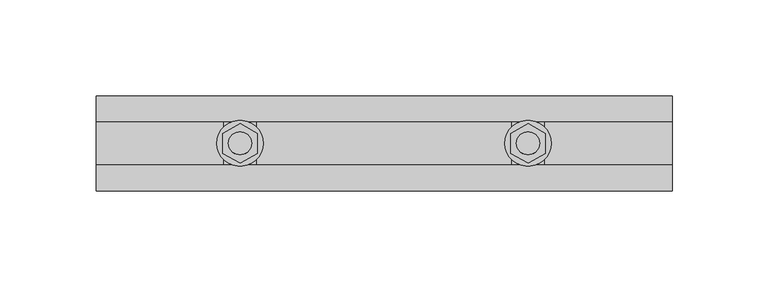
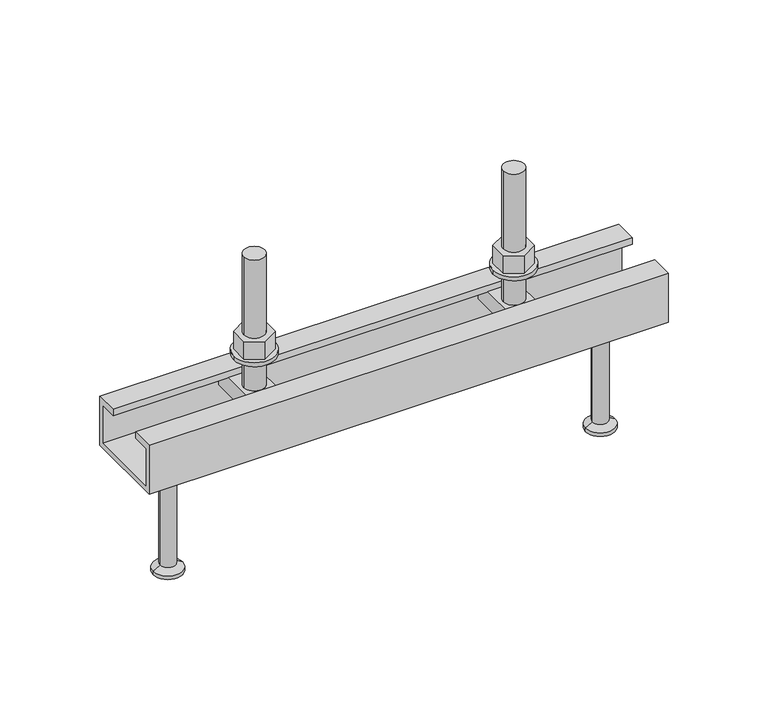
"""IFC4 building model written with IfcOpenShell, lengths in millimetres: fastener geometry, JTA-W JORDAHL® AnchorChannels : JTA-W L=300 mm."""

from ifc_helpers import new_model, si_unit, point, frame, frame_2d, origin, place, context, project, spatial, polyline, circle_curve, trimmed, segment, composite_curve, outline, extrude, source, transform, mapped, element, save
from ifc_brep_helpers import plane_surface, cylinder_surface, revolved_surface, advanced_brep


def fastener_c9796623(model_context):
    return source(origin(), model_context, "Body", "SolidModel", [
        extrude(outline(polyline([(225.0, -10.3923048), (216.0, -5.1961524), (216.0, 5.1961524), (225.0, 10.3923048), (234.0, 5.1961524), (234.0, -5.1961524), (225.0, -10.3923048)]), holes=[composite_curve([segment(trimmed(circle_curve(frame_2d((225.0, 0.0)), 6.0), [point((219.0, 0.0))], [point((231.0, 0.0))], True, "CARTESIAN"), True, "CONTINUOUS"), segment(trimmed(circle_curve(frame_2d((225.0, 0.0)), 6.0), [point((231.0, 0.0))], [point((219.0, 0.0))], True, "CARTESIAN"), True, "CONTINUOUS")], self_intersect=False)]), frame((0.0, 0.0, 17.5), z_axis=(0.0, 0.0, 1.0), x_axis=(1.0, 0.0, 0.0)), (0.0, 0.0, 1.0), 10.8),
        extrude(outline(composite_curve([segment(trimmed(circle_curve(frame_2d((225.0, 0.0)), 12.0), [point((213.0, 0.0))], [point((237.0, 0.0))], False, "CARTESIAN"), True, "CONTINUOUS"), segment(trimmed(circle_curve(frame_2d((225.0, 0.0)), 12.0), [point((237.0, 0.0))], [point((213.0, 0.0))], False, "CARTESIAN"), True, "CONTINUOUS")], self_intersect=False), holes=[composite_curve([segment(trimmed(circle_curve(frame_2d((225.0, 0.0)), 6.5), [point((218.5, 0.0))], [point((231.5, 0.0))], True, "CARTESIAN"), True, "CONTINUOUS"), segment(trimmed(circle_curve(frame_2d((225.0, 0.0)), 6.5), [point((231.5, 0.0))], [point((218.5, 0.0))], True, "CARTESIAN"), True, "CONTINUOUS")], self_intersect=False)]), frame((0.0, 0.0, 15.0), z_axis=(0.0, 0.0, 1.0), x_axis=(1.0, 0.0, 0.0)), (0.0, 0.0, 1.0), 2.5),
        extrude(outline(polyline([(75.0, -10.3923048), (66.0, -5.1961524), (66.0, 5.1961524), (75.0, 10.3923048), (84.0, 5.1961524), (84.0, -5.1961524), (75.0, -10.3923048)]), holes=[composite_curve([segment(trimmed(circle_curve(frame_2d((75.0, 0.0)), 6.0), [point((69.0, 0.0))], [point((81.0, 0.0))], True, "CARTESIAN"), True, "CONTINUOUS"), segment(trimmed(circle_curve(frame_2d((75.0, 0.0)), 6.0), [point((81.0, 0.0))], [point((69.0, 0.0))], True, "CARTESIAN"), True, "CONTINUOUS")], self_intersect=False)]), frame((0.0, 0.0, 17.5), z_axis=(0.0, 0.0, 1.0), x_axis=(1.0, 0.0, 0.0)), (0.0, 0.0, 1.0), 10.8),
        extrude(outline(composite_curve([segment(trimmed(circle_curve(frame_2d((75.0, 0.0)), 12.0), [point((63.0, 0.0))], [point((87.0, 0.0))], False, "CARTESIAN"), True, "CONTINUOUS"), segment(trimmed(circle_curve(frame_2d((75.0, 0.0)), 12.0), [point((87.0, 0.0))], [point((63.0, 0.0))], False, "CARTESIAN"), True, "CONTINUOUS")], self_intersect=False), holes=[composite_curve([segment(trimmed(circle_curve(frame_2d((75.0, 0.0)), 6.5), [point((68.5, 0.0))], [point((81.5, 0.0))], True, "CARTESIAN"), True, "CONTINUOUS"), segment(trimmed(circle_curve(frame_2d((75.0, 0.0)), 6.5), [point((81.5, 0.0))], [point((68.5, 0.0))], True, "CARTESIAN"), True, "CONTINUOUS")], self_intersect=False)]), frame((0.0, 0.0, 15.0), z_axis=(0.0, 0.0, 1.0), x_axis=(1.0, 0.0, 0.0)), (0.0, 0.0, 1.0), 2.5),
        advanced_brep(
        [(233.5, -20.7, -4.0), (233.5, -20.7, -14.0), (233.5, 20.7, -14.0), (233.5, 20.7, -4.0), (216.5, -20.7, -4.0), (216.5, 20.7, -4.0), (216.5, 20.7, -14.0), (216.5, -20.7, -14.0), (231.0, 0.0, -4.0), (219.0, 0.0, -4.0), (219.0, 0.0, 76.0), (231.0, 0.0, 76.0)],
        [
            (0, 1),
            (1, 2),
            (2, 3),
            (3, 0),
            (4, 5),
            (5, 6),
            (6, 7),
            (7, 4),
            (3, 5),
            (4, 0),
            (8, 9, circle_curve(frame((225.0, 0.0, -4.0), z_axis=(0.0, 0.0, -1.0), x_axis=(1.0, 0.0, 0.0)), 6.0)),
            (9, 8, circle_curve(frame((225.0, 0.0, -4.0), z_axis=(0.0, 0.0, -1.0), x_axis=(1.0, 0.0, 0.0)), 6.0)),
            (2, 6),
            (1, 7),
            (10, 11, circle_curve(frame((225.0, 0.0, 76.0), z_axis=(0.0, 0.0, 1.0), x_axis=(1.0, 0.0, 0.0)), 6.0)),
            (11, 10, circle_curve(frame((225.0, 0.0, 76.0), z_axis=(0.0, 0.0, 1.0), x_axis=(1.0, 0.0, 0.0)), 6.0)),
            (11, 8),
            (9, 10),
        ],
        [
            plane_surface(frame((233.5, 20.7, -4.0), z_axis=(1.0, 0.0, 0.0), x_axis=(0.0, 1.0, 0.0))),
            plane_surface(frame((216.5, 20.7, -4.0), z_axis=(-1.0, 0.0, 0.0), x_axis=(0.0, -1.0, 0.0))),
            plane_surface(frame((233.5, -20.7, -4.0), z_axis=(0.0, 0.0, 1.0), x_axis=(-1.0, 0.0, 0.0))),
            plane_surface(frame((233.5, 20.7, -4.0), z_axis=(0.0, 1.0, 0.0), x_axis=(-1.0, 0.0, 0.0))),
            plane_surface(frame((233.5, 20.7, -14.0), z_axis=(0.0, 0.0, -1.0), x_axis=(-1.0, 0.0, 0.0))),
            plane_surface(frame((233.5, -20.7, -14.0), z_axis=(0.0, -1.0, 0.0), x_axis=(-1.0, 0.0, 0.0))),
            plane_surface(frame((231.0, 0.0, 76.0), z_axis=(0.0, 0.0, 1.0), x_axis=(0.0, -1.0, 0.0))),
            cylinder_surface(frame((225.0, 0.0, -4.0), z_axis=(0.0, 0.0, 1.0), x_axis=(1.0, 0.0, 0.0)), 6.0),
        ],
        [
            (0, [[1, 2, 3, 4]]),
            (1, [[5, 6, 7, 8]]),
            (2, [[9, -5, 10, -4], [11, 12]]),
            (3, [[13, -6, -9, -3]]),
            (4, [[14, -7, -13, -2]]),
            (5, [[-10, -8, -14, -1]]),
            (6, [[15, 16]]),
            (7, [[17, -12, 18, -16]]),
            (7, [[-18, -11, -17, -15]]),
        ],
    ),
        advanced_brep(
        [(83.5, -20.7, -4.0), (83.5, -20.7, -14.0), (83.5, 20.7, -14.0), (83.5, 20.7, -4.0), (66.5, -20.7, -4.0), (66.5, 20.7, -4.0), (66.5, 20.7, -14.0), (66.5, -20.7, -14.0), (81.0, 0.0, -4.0), (69.0, 0.0, -4.0), (69.0, 0.0, 76.0), (81.0, 0.0, 76.0)],
        [
            (0, 1),
            (1, 2),
            (2, 3),
            (3, 0),
            (4, 5),
            (5, 6),
            (6, 7),
            (7, 4),
            (3, 5),
            (4, 0),
            (8, 9, circle_curve(frame((75.0, 0.0, -4.0), z_axis=(0.0, 0.0, -1.0), x_axis=(1.0, 0.0, 0.0)), 6.0)),
            (9, 8, circle_curve(frame((75.0, 0.0, -4.0), z_axis=(0.0, 0.0, -1.0), x_axis=(1.0, 0.0, 0.0)), 6.0)),
            (2, 6),
            (1, 7),
            (10, 11, circle_curve(frame((75.0, 0.0, 76.0), z_axis=(0.0, 0.0, 1.0), x_axis=(1.0, 0.0, 0.0)), 6.0)),
            (11, 10, circle_curve(frame((75.0, 0.0, 76.0), z_axis=(0.0, 0.0, 1.0), x_axis=(1.0, 0.0, 0.0)), 6.0)),
            (11, 8),
            (9, 10),
        ],
        [
            plane_surface(frame((83.5, 20.7, -4.0), z_axis=(1.0, 0.0, 0.0), x_axis=(0.0, 1.0, 0.0))),
            plane_surface(frame((66.5, 20.7, -4.0), z_axis=(-1.0, 0.0, 0.0), x_axis=(0.0, -1.0, 0.0))),
            plane_surface(frame((83.5, -20.7, -4.0), z_axis=(0.0, 0.0, 1.0), x_axis=(-1.0, 0.0, 0.0))),
            plane_surface(frame((83.5, 20.7, -4.0), z_axis=(0.0, 1.0, 0.0), x_axis=(-1.0, 0.0, 0.0))),
            plane_surface(frame((83.5, 20.7, -14.0), z_axis=(0.0, 0.0, -1.0), x_axis=(-1.0, 0.0, 0.0))),
            plane_surface(frame((83.5, -20.7, -14.0), z_axis=(0.0, -1.0, 0.0), x_axis=(-1.0, 0.0, 0.0))),
            plane_surface(frame((81.0, 0.0, 76.0), z_axis=(0.0, 0.0, 1.0), x_axis=(0.0, -1.0, 0.0))),
            cylinder_surface(frame((75.0, 0.0, -4.0), z_axis=(0.0, 0.0, 1.0), x_axis=(1.0, 0.0, 0.0)), 6.0),
        ],
        [
            (0, [[1, 2, 3, 4]]),
            (1, [[5, 6, 7, 8]]),
            (2, [[9, -5, 10, -4], [11, 12]]),
            (3, [[13, -6, -9, -3]]),
            (4, [[14, -7, -13, -2]]),
            (5, [[-10, -8, -14, -1]]),
            (6, [[15, 16]]),
            (7, [[17, -12, 18, -16]]),
            (7, [[-18, -11, -17, -15]]),
        ],
    ),
        advanced_brep(
        [(275.0, 0.0, -30.0), (261.5, 0.0, -30.0), (288.5, 0.0, -30.0), (266.5, 0.0, -100.0), (275.0, 0.0, -100.0), (283.5, 0.0, -100.0), (266.5, 0.0, -98.0), (283.5, 0.0, -98.0), (270.5, 0.0, -95.6905989), (279.5, 0.0, -95.6905989), (270.5, 0.0, -32.5), (279.5, 0.0, -32.5)],
        [
            (0, 1),
            (1, 2, circle_curve(frame((275.0, 0.0, -30.0), z_axis=(0.0, 0.0, 1.0), x_axis=(1.0, 0.0, 0.0)), 13.5)),
            (2, 0),
            (2, 1, circle_curve(frame((275.0, 0.0, -30.0), z_axis=(0.0, 0.0, 1.0), x_axis=(1.0, 0.0, 0.0)), 13.5)),
            (3, 4),
            (4, 5),
            (5, 3, circle_curve(frame((275.0, 0.0, -100.0), z_axis=(0.0, 0.0, -1.0), x_axis=(1.0, 0.0, 0.0)), 8.5)),
            (3, 5, circle_curve(frame((275.0, 0.0, -100.0), z_axis=(0.0, 0.0, -1.0), x_axis=(1.0, 0.0, 0.0)), 8.5)),
            (6, 3),
            (5, 7),
            (7, 6, circle_curve(frame((275.0, 0.0, -98.0), z_axis=(0.0, 0.0, -1.0), x_axis=(1.0, 0.0, 0.0)), 8.5)),
            (6, 7, circle_curve(frame((275.0, 0.0, -98.0), z_axis=(0.0, 0.0, -1.0), x_axis=(1.0, 0.0, 0.0)), 8.5)),
            (8, 6),
            (7, 9),
            (9, 8, circle_curve(frame((275.0, 0.0, -95.6905989), z_axis=(0.0, 0.0, -1.0), x_axis=(1.0, 0.0, 0.0)), 4.5)),
            (8, 9, circle_curve(frame((275.0, 0.0, -95.6905989), z_axis=(0.0, 0.0, -1.0), x_axis=(1.0, 0.0, 0.0)), 4.5)),
            (10, 8),
            (9, 11),
            (11, 10, circle_curve(frame((275.0, 0.0, -32.5), z_axis=(0.0, 0.0, -1.0), x_axis=(1.0, 0.0, 0.0)), 4.5)),
            (10, 11, circle_curve(frame((275.0, 0.0, -32.5), z_axis=(0.0, 0.0, -1.0), x_axis=(1.0, 0.0, 0.0)), 4.5)),
            (1, 10),
            (11, 2),
        ],
        [
            plane_surface(frame((275.0, 0.0, -30.0), z_axis=(0.0, 0.0, 1.0), x_axis=(1.0, 0.0, 0.0))),
            plane_surface(frame((275.0, 0.0, -100.0), z_axis=(0.0, 0.0, -1.0), x_axis=(1.0, 0.0, 0.0))),
            cylinder_surface(frame((275.0, 0.0, 2284.3150031), z_axis=(0.0, 0.0, 1.0), x_axis=(1.0, 0.0, 0.0)), 8.5),
            revolved_surface(polyline([(283.5, 0.0, -98.0), (279.5, 0.0, -95.6905989)]), (275.0, 0.0, 2284.3150031), (0.0, 0.0, 1.0)),
            cylinder_surface(frame((275.0, 0.0, 2284.3150031), z_axis=(0.0, 0.0, 1.0), x_axis=(1.0, 0.0, 0.0)), 4.5),
            revolved_surface(polyline([(279.5, 0.0, -32.5), (288.5, 0.0, -30.0)]), (275.0, 0.0, 2284.3150031), (0.0, 0.0, 1.0)),
        ],
        [
            (0, [[1, 2, 3]]),
            (0, [[-3, 4, -1]]),
            (1, [[5, 6, 7]]),
            (1, [[-6, -5, 8]]),
            (2, [[9, -7, 10, 11]]),
            (2, [[-10, -8, -9, 12]]),
            (3, [[13, -11, 14, 15]]),
            (3, [[-14, -12, -13, 16]]),
            (4, [[17, -15, 18, 19]]),
            (4, [[-18, -16, -17, 20]]),
            (5, [[21, -19, 22, -2]]),
            (5, [[-22, -20, -21, -4]]),
        ],
    ),
        advanced_brep(
        [(25.0, 0.0, -30.0), (11.5, 0.0, -30.0), (38.5, 0.0, -30.0), (16.5, 0.0, -100.0), (25.0, 0.0, -100.0), (33.5, 0.0, -100.0), (16.5, 0.0, -98.0), (33.5, 0.0, -98.0), (20.5, 0.0, -95.6905989), (29.5, 0.0, -95.6905989), (20.5, 0.0, -32.5), (29.5, 0.0, -32.5)],
        [
            (0, 1),
            (1, 2, circle_curve(frame((25.0, 0.0, -30.0), z_axis=(0.0, 0.0, 1.0), x_axis=(1.0, 0.0, 0.0)), 13.5)),
            (2, 0),
            (2, 1, circle_curve(frame((25.0, 0.0, -30.0), z_axis=(0.0, 0.0, 1.0), x_axis=(1.0, 0.0, 0.0)), 13.5)),
            (3, 4),
            (4, 5),
            (5, 3, circle_curve(frame((25.0, 0.0, -100.0), z_axis=(0.0, 0.0, -1.0), x_axis=(1.0, 0.0, 0.0)), 8.5)),
            (3, 5, circle_curve(frame((25.0, 0.0, -100.0), z_axis=(0.0, 0.0, -1.0), x_axis=(1.0, 0.0, 0.0)), 8.5)),
            (6, 3),
            (5, 7),
            (7, 6, circle_curve(frame((25.0, 0.0, -98.0), z_axis=(0.0, 0.0, -1.0), x_axis=(1.0, 0.0, 0.0)), 8.5)),
            (6, 7, circle_curve(frame((25.0, 0.0, -98.0), z_axis=(0.0, 0.0, -1.0), x_axis=(1.0, 0.0, 0.0)), 8.5)),
            (8, 6),
            (7, 9),
            (9, 8, circle_curve(frame((25.0, 0.0, -95.6905989), z_axis=(0.0, 0.0, -1.0), x_axis=(1.0, 0.0, 0.0)), 4.5)),
            (8, 9, circle_curve(frame((25.0, 0.0, -95.6905989), z_axis=(0.0, 0.0, -1.0), x_axis=(1.0, 0.0, 0.0)), 4.5)),
            (10, 8),
            (9, 11),
            (11, 10, circle_curve(frame((25.0, 0.0, -32.5), z_axis=(0.0, 0.0, -1.0), x_axis=(1.0, 0.0, 0.0)), 4.5)),
            (10, 11, circle_curve(frame((25.0, 0.0, -32.5), z_axis=(0.0, 0.0, -1.0), x_axis=(1.0, 0.0, 0.0)), 4.5)),
            (1, 10),
            (11, 2),
        ],
        [
            plane_surface(frame((25.0, 0.0, -30.0), z_axis=(0.0, 0.0, 1.0), x_axis=(1.0, 0.0, 0.0))),
            plane_surface(frame((25.0, 0.0, -100.0), z_axis=(0.0, 0.0, -1.0), x_axis=(1.0, 0.0, 0.0))),
            cylinder_surface(frame((25.0, 0.0, 2284.3150031), z_axis=(0.0, 0.0, 1.0), x_axis=(1.0, 0.0, 0.0)), 8.5),
            revolved_surface(polyline([(33.5, 0.0, -98.0), (29.5, 0.0, -95.6905989)]), (25.0, 0.0, 2284.3150031), (0.0, 0.0, 1.0)),
            cylinder_surface(frame((25.0, 0.0, 2284.3150031), z_axis=(0.0, 0.0, 1.0), x_axis=(1.0, 0.0, 0.0)), 4.5),
            revolved_surface(polyline([(29.5, 0.0, -32.5), (38.5, 0.0, -30.0)]), (25.0, 0.0, 2284.3150031), (0.0, 0.0, 1.0)),
        ],
        [
            (0, [[1, 2, 3]]),
            (0, [[-3, 4, -1]]),
            (1, [[5, 6, 7]]),
            (1, [[-6, -5, 8]]),
            (2, [[9, -7, 10, 11]]),
            (2, [[-10, -8, -9, 12]]),
            (3, [[13, -11, 14, 15]]),
            (3, [[-14, -12, -13, 16]]),
            (4, [[17, -15, 18, 19]]),
            (4, [[-18, -16, -17, 20]]),
            (5, [[21, -19, 22, -2]]),
            (5, [[-22, -20, -21, -4]]),
        ],
    ),
        extrude(outline(polyline([(-24.75, 0.0), (-11.25, 0.0), (-11.25, -4.0), (-21.95, -4.0), (-21.95, -27.2), (21.95, -27.2), (21.95, -4.0), (11.25, -4.0), (11.25, 0.0), (24.75, 0.0), (24.75, -30.0), (-24.75, -30.0), (-24.75, 0.0)])), frame((0.0, 0.0, 0.0), z_axis=(1.0, 0.0, 0.0), x_axis=(0.0, 1.0, 0.0)), (0.0, 0.0, 1.0), 300.0),
    ])


if __name__ == "__main__":
    model = new_model("IFC4")
    model_context = context("Model", 3, world=origin())
    ifc_project = project(units=[si_unit("LENGTHUNIT", "METRE", prefix="MILLI")], contexts=[model_context])
    site = spatial("IfcSite", under=ifc_project)
    building = spatial("IfcBuilding", under=site)
    placement = place(None, origin())
    fastener_shape = fastener_c9796623(model_context)
    element("IfcFastener", 1, ObjectType="JTA-W JORDAHL® AnchorChannels : JTA-W L=300 mm", at=placement, inside=building, context=model_context, shape_type="MappedRepresentation", body=[
        mapped(fastener_shape, transform((0.0, 0.0, 0.0), x_axis=(1.0, 0.0, 0.0), y_axis=(0.0, 1.0, 0.0), z_axis=(0.0, 0.0, 1.0))),
    ])
    save(model, "model.ifc")
